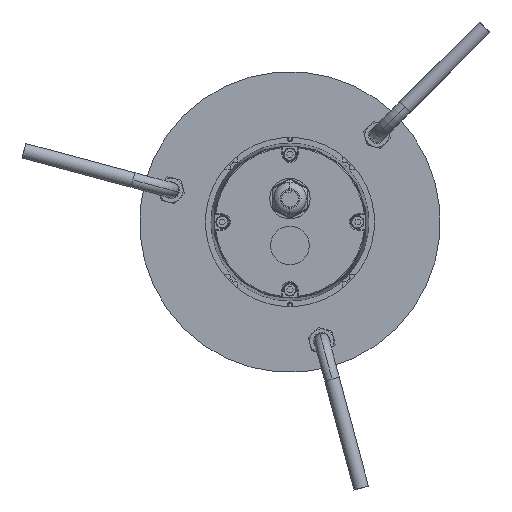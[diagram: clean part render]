
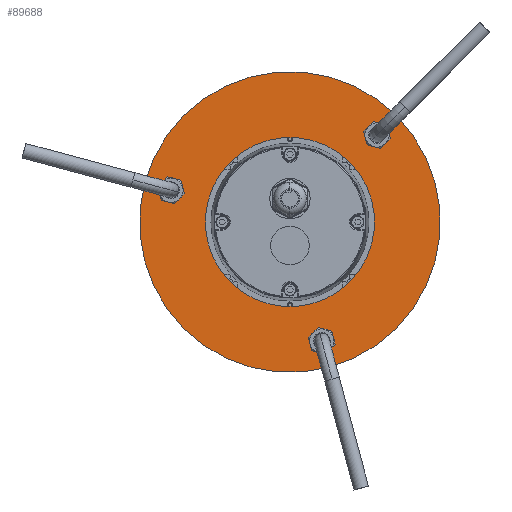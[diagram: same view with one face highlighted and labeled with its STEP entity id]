
A CAD part, front view. The second image highlights one B-rep face of the part: STEP entity #89688.
In plain terms, the highlighted planar face has unit normal (0, -1, 0) as drawn and (0, 0, 1) by its records, which use the part's own axes.
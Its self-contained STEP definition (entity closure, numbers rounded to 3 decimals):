
#89459=CARTESIAN_POINT('',(0.,0.,1.5));
#89460=DIRECTION('',(0.,0.,-1.));
#89461=DIRECTION('',(-1.,0.,0.));
#89462=AXIS2_PLACEMENT_3D('',#89459,#89460,#89461);
#89464=CARTESIAN_POINT('',(0.,0.,1.5));
#89465=DIRECTION('',(0.,0.,-1.));
#89466=DIRECTION('',(1.,0.,0.));
#89467=AXIS2_PLACEMENT_3D('',#89464,#89465,#89466);
#89469=CARTESIAN_POINT('',(0.,0.,1.5));
#89470=DIRECTION('',(0.,0.,1.));
#89471=DIRECTION('',(-1.,0.,0.));
#89472=AXIS2_PLACEMENT_3D('',#89469,#89470,#89471);
#89474=CARTESIAN_POINT('',(0.,0.,1.5));
#89475=DIRECTION('',(0.,0.,1.));
#89476=DIRECTION('',(1.,0.,0.));
#89477=AXIS2_PLACEMENT_3D('',#89474,#89475,#89476);
#89479=CARTESIAN_POINT('',(0.,-65.5,1.5));
#89480=DIRECTION('',(0.,0.,1.));
#89481=DIRECTION('',(-1.,0.,0.));
#89482=AXIS2_PLACEMENT_3D('',#89479,#89480,#89481);
#89484=CARTESIAN_POINT('',(0.,-65.5,1.5));
#89485=DIRECTION('',(0.,0.,1.));
#89486=DIRECTION('',(1.,0.,0.));
#89487=AXIS2_PLACEMENT_3D('',#89484,#89485,#89486);
#89489=CARTESIAN_POINT('',(-56.725,32.75,1.5));
#89490=DIRECTION('',(0.,0.,1.));
#89491=DIRECTION('',(-1.,0.,0.));
#89492=AXIS2_PLACEMENT_3D('',#89489,#89490,#89491);
#89494=CARTESIAN_POINT('',(-56.725,32.75,1.5));
#89495=DIRECTION('',(0.,0.,1.));
#89496=DIRECTION('',(1.,0.,0.));
#89497=AXIS2_PLACEMENT_3D('',#89494,#89495,#89496);
#89499=CARTESIAN_POINT('',(56.725,32.75,1.5));
#89500=DIRECTION('',(0.,0.,1.));
#89501=DIRECTION('',(-1.,0.,0.));
#89502=AXIS2_PLACEMENT_3D('',#89499,#89500,#89501);
#89504=CARTESIAN_POINT('',(56.725,32.75,1.5));
#89505=DIRECTION('',(0.,0.,1.));
#89506=DIRECTION('',(1.,0.,0.));
#89507=AXIS2_PLACEMENT_3D('',#89504,#89505,#89506);
#89541=CARTESIAN_POINT('',(-52.225,32.75,1.5));
#89542=VERTEX_POINT('',#89541);
#89543=CARTESIAN_POINT('',(-61.225,32.75,1.5));
#89544=VERTEX_POINT('',#89543);
#89561=CARTESIAN_POINT('',(80.,0.,1.5));
#89562=VERTEX_POINT('',#89561);
#89563=CARTESIAN_POINT('',(-80.,0.,1.5));
#89564=VERTEX_POINT('',#89563);
#89565=CARTESIAN_POINT('',(-45.,0.,1.5));
#89566=CARTESIAN_POINT('',(45.,0.,1.5));
#89567=VERTEX_POINT('',#89565);
#89568=VERTEX_POINT('',#89566);
#89569=CARTESIAN_POINT('',(-4.5,-65.5,1.5));
#89570=CARTESIAN_POINT('',(4.5,-65.5,1.5));
#89571=VERTEX_POINT('',#89569);
#89572=VERTEX_POINT('',#89570);
#89573=CARTESIAN_POINT('',(52.225,32.75,1.5));
#89574=CARTESIAN_POINT('',(61.225,32.75,1.5));
#89575=VERTEX_POINT('',#89573);
#89576=VERTEX_POINT('',#89574);
#89656=CARTESIAN_POINT('',(0.,0.,1.5));
#89657=DIRECTION('',(0.,0.,1.));
#89658=DIRECTION('',(1.,0.,0.));
#89659=AXIS2_PLACEMENT_3D('',#89656,#89657,#89658);
#89660=PLANE('',#89659);
#89661=ORIENTED_EDGE('',*,*,#89636,.T.);
#89662=ORIENTED_EDGE('',*,*,#89649,.T.);
#89663=EDGE_LOOP('',(#89661,#89662));
#89664=FACE_OUTER_BOUND('',#89663,.F.);
#89666=ORIENTED_EDGE('',*,*,#89665,.T.);
#89668=ORIENTED_EDGE('',*,*,#89667,.T.);
#89669=EDGE_LOOP('',(#89666,#89668));
#89670=FACE_BOUND('',#89669,.F.);
#89672=ORIENTED_EDGE('',*,*,#89671,.T.);
#89674=ORIENTED_EDGE('',*,*,#89673,.T.);
#89675=EDGE_LOOP('',(#89672,#89674));
#89676=FACE_BOUND('',#89675,.F.);
#89677=ORIENTED_EDGE('',*,*,#89586,.T.);
#89679=ORIENTED_EDGE('',*,*,#89678,.T.);
#89680=EDGE_LOOP('',(#89677,#89679));
#89681=FACE_BOUND('',#89680,.F.);
#89683=ORIENTED_EDGE('',*,*,#89682,.T.);
#89685=ORIENTED_EDGE('',*,*,#89684,.T.);
#89686=EDGE_LOOP('',(#89683,#89685));
#89687=FACE_BOUND('',#89686,.F.);
#89688=ADVANCED_FACE('',(#89664,#89670,#89676,#89681,#89687),#89660,.T.);
#89463=CIRCLE('',#89462,80.);
#89468=CIRCLE('',#89467,80.);
#89473=CIRCLE('',#89472,45.);
#89478=CIRCLE('',#89477,45.);
#89483=CIRCLE('',#89482,4.5);
#89488=CIRCLE('',#89487,4.5);
#89493=CIRCLE('',#89492,4.5);
#89498=CIRCLE('',#89497,4.5);
#89503=CIRCLE('',#89502,4.5);
#89508=CIRCLE('',#89507,4.5);
#89586=EDGE_CURVE('',#89544,#89542,#89493,.T.);
#89636=EDGE_CURVE('',#89564,#89562,#89463,.T.);
#89649=EDGE_CURVE('',#89562,#89564,#89468,.T.);
#89665=EDGE_CURVE('',#89567,#89568,#89473,.T.);
#89667=EDGE_CURVE('',#89568,#89567,#89478,.T.);
#89671=EDGE_CURVE('',#89571,#89572,#89483,.T.);
#89673=EDGE_CURVE('',#89572,#89571,#89488,.T.);
#89678=EDGE_CURVE('',#89542,#89544,#89498,.T.);
#89682=EDGE_CURVE('',#89575,#89576,#89503,.T.);
#89684=EDGE_CURVE('',#89576,#89575,#89508,.T.);
